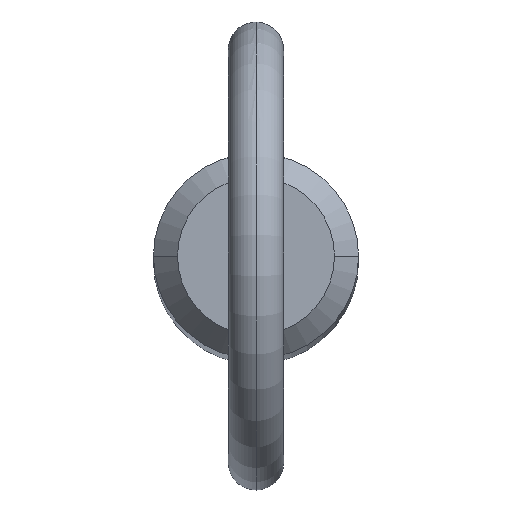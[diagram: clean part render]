
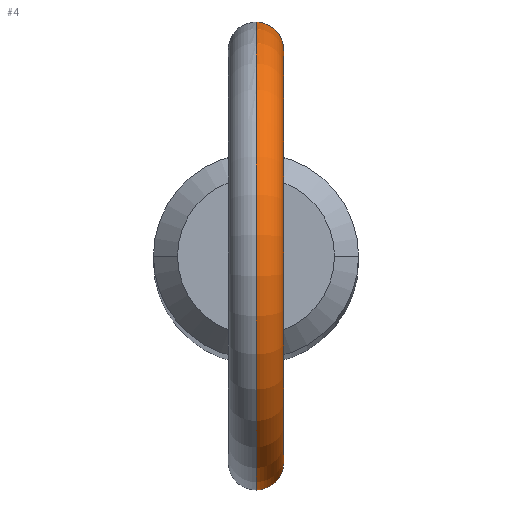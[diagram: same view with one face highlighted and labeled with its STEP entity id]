
A CAD part, top view. The second image highlights one B-rep face of the part: STEP entity #4.
In plain terms, the highlighted toroidal (fillet/blend) face has major radius 11.2 mm and minor radius 1.5 mm.
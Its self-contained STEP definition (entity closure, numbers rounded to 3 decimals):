
#3 = CARTESIAN_POINT ( 'NONE',  ( 0.417, -5.535, 149.467 ) ) ;
#4 = ADVANCED_FACE ( 'NONE', ( #345 ), #251, .T. ) ;
#21 = CIRCLE ( 'NONE', #230, 9.7 ) ;
#27 = CARTESIAN_POINT ( 'NONE',  ( 1.352, 5.383, 146.935 ) ) ;
#31 = CARTESIAN_POINT ( 'NONE',  ( 1.003, 5.459, 149.025 ) ) ;
#33 = CARTESIAN_POINT ( 'NONE',  ( 0.213, -5.547, 146.088 ) ) ;
#35 = CARTESIAN_POINT ( 'NONE',  ( 1.503, -5.343, 147.659 ) ) ;
#37 = VERTEX_POINT ( 'NONE', #267 ) ;
#71 = CARTESIAN_POINT ( 'NONE',  ( 0.807, -5.492, 146.306 ) ) ;
#75 = CARTESIAN_POINT ( 'NONE',  ( 0.107, -5.55, 146.077 ) ) ;
#80 = EDGE_CURVE ( 'NONE', #202, #37, #248, .T. ) ;
#96 = EDGE_CURVE ( 'NONE', #177, #492, #406, .T. ) ;
#106 = CARTESIAN_POINT ( 'NONE',  ( 1.363, -5.38, 146.934 ) ) ;
#109 = CARTESIAN_POINT ( 'NONE',  ( 1.455, -5.356, 147.238 ) ) ;
#113 = CARTESIAN_POINT ( 'NONE',  ( 0.984, 5.464, 146.424 ) ) ;
#115 = DIRECTION ( 'NONE',  ( 0., 0., -1. ) ) ;
#116 = ORIENTED_EDGE ( 'NONE', *, *, #445, .F. ) ;
#147 = CARTESIAN_POINT ( 'NONE',  ( 1.5, -5.343, 147.554 ) ) ;
#148 = CARTESIAN_POINT ( 'NONE',  ( 0., -5.55, 149.545 ) ) ;
#150 = CARTESIAN_POINT ( 'NONE',  ( 1.44, -5.36, 148.186 ) ) ;
#153 = CARTESIAN_POINT ( 'NONE',  ( 0.977, -5.464, 146.432 ) ) ;
#155 = CARTESIAN_POINT ( 'NONE',  ( 0.81, 5.494, 146.295 ) ) ;
#156 = CARTESIAN_POINT ( 'NONE',  ( 0., 0., 157.5 ) ) ;
#157 = CARTESIAN_POINT ( 'NONE',  ( 1.485, 5.348, 147.978 ) ) ;
#162 = CARTESIAN_POINT ( 'NONE',  ( 0.213, 5.55, 149.545 ) ) ;
#173 = DIRECTION ( 'NONE',  ( 0., 0., -1. ) ) ;
#177 = VERTEX_POINT ( 'NONE', #421 ) ;
#193 = CARTESIAN_POINT ( 'NONE',  ( 0.523, -5.526, 146.166 ) ) ;
#196 = CARTESIAN_POINT ( 'NONE',  ( 1.251, 5.407, 146.75 ) ) ;
#199 = CARTESIAN_POINT ( 'NONE',  ( 0.106, -5.55, 149.545 ) ) ;
#202 = VERTEX_POINT ( 'NONE', #148 ) ;
#203 = EDGE_CURVE ( 'NONE', #177, #37, #336, .T. ) ;
#225 = CARTESIAN_POINT ( 'NONE',  ( 0., 0., 157.5 ) ) ;
#227 = DIRECTION ( 'NONE',  ( 1., 0., 0. ) ) ;
#230 = AXIS2_PLACEMENT_3D ( 'NONE', #225, #299, #173 ) ;
#235 = CARTESIAN_POINT ( 'NONE',  ( 0.941, -5.471, 149.107 ) ) ;
#237 = CARTESIAN_POINT ( 'NONE',  ( 1.26, -5.407, 146.743 ) ) ;
#239 = CARTESIAN_POINT ( 'NONE',  ( 1.294, 5.398, 148.585 ) ) ;
#244 = CARTESIAN_POINT ( 'NONE',  ( 1.194, -5.422, 148.771 ) ) ;
#247 = DIRECTION ( 'NONE',  ( 1., 0., 0. ) ) ;
#248 = B_SPLINE_CURVE_WITH_KNOTS ( 'NONE', 3,
 ( #315, #199, #481, #3, #320, #488, #235, #244, #479, #150, #280, #35, #147, #279, #109, #106, #237, #362, #153, #71, #321, #193, #525, #33, #75, #520 ),
 .UNSPECIFIED., .F., .F.,
 ( 4, 2, 2, 2, 2, 2, 2, 2, 2, 2, 2, 2, 4 ),
 ( 0.005, 0.005, 0.005, 0.006, 0.006, 0.007, 0.007, 0.008, 0.008, 0.009, 0.009, 0.009, 0.01 ),
 .UNSPECIFIED. ) ;
#251 = TOROIDAL_SURFACE ( 'NONE', #288, 11.2, 1.5 ) ;
#267 = CARTESIAN_POINT ( 'NONE',  ( 0., -5.55, 146.077 ) ) ;
#271 = CARTESIAN_POINT ( 'NONE',  ( 1.509, 5.341, 147.553 ) ) ;
#277 = CARTESIAN_POINT ( 'NONE',  ( 1.194, 5.422, 148.772 ) ) ;
#279 = CARTESIAN_POINT ( 'NONE',  ( 1.477, -5.35, 147.344 ) ) ;
#280 = CARTESIAN_POINT ( 'NONE',  ( 1.486, -5.347, 147.974 ) ) ;
#288 = AXIS2_PLACEMENT_3D ( 'NONE', #437, #227, #434 ) ;
#299 = DIRECTION ( 'NONE',  ( 1., 0., 0. ) ) ;
#311 = ORIENTED_EDGE ( 'NONE', *, *, #203, .T. ) ;
#314 = CARTESIAN_POINT ( 'NONE',  ( 1.393, 5.372, 147.033 ) ) ;
#315 = CARTESIAN_POINT ( 'NONE',  ( 0., -5.55, 149.545 ) ) ;
#320 = CARTESIAN_POINT ( 'NONE',  ( 0.515, -5.527, 149.422 ) ) ;
#321 = CARTESIAN_POINT ( 'NONE',  ( 0.716, -5.504, 146.252 ) ) ;
#336 = CIRCLE ( 'NONE', #418, 12.7 ) ;
#345 = FACE_OUTER_BOUND ( 'NONE', #353, .T. ) ;
#353 = EDGE_LOOP ( 'NONE', ( #387, #311, #458, #116 ) ) ;
#362 = CARTESIAN_POINT ( 'NONE',  ( 1.055, -5.449, 146.505 ) ) ;
#365 = CARTESIAN_POINT ( 'NONE',  ( 0.779, 5.496, 149.248 ) ) ;
#368 = CARTESIAN_POINT ( 'NONE',  ( 0., 5.55, 146.077 ) ) ;
#375 = CARTESIAN_POINT ( 'NONE',  ( 0., 5.55, 149.545 ) ) ;
#387 = ORIENTED_EDGE ( 'NONE', *, *, #96, .F. ) ;
#404 = CARTESIAN_POINT ( 'NONE',  ( 0.107, 5.55, 146.077 ) ) ;
#406 = B_SPLINE_CURVE_WITH_KNOTS ( 'NONE', 3,
 ( #368, #404, #440, #409, #447, #155, #113, #413, #196, #27, #314, #523, #271, #157, #483, #239, #277, #31, #448, #365, #486, #495, #162, #375 ),
 .UNSPECIFIED., .F., .F.,
 ( 4, 2, 2, 2, 2, 2, 2, 2, 2, 2, 2, 4 ),
 ( 0.001, 0.001, 0.001, 0.002, 0.002, 0.002, 0.003, 0.004, 0.004, 0.005, 0.005, 0.006 ),
 .UNSPECIFIED. ) ;
#409 = CARTESIAN_POINT ( 'NONE',  ( 0.419, 5.535, 146.132 ) ) ;
#413 = CARTESIAN_POINT ( 'NONE',  ( 1.19, 5.421, 146.662 ) ) ;
#418 = AXIS2_PLACEMENT_3D ( 'NONE', #156, #247, #115 ) ;
#421 = CARTESIAN_POINT ( 'NONE',  ( 0., 5.55, 146.077 ) ) ;
#432 = CARTESIAN_POINT ( 'NONE',  ( 0., 5.55, 149.545 ) ) ;
#434 = DIRECTION ( 'NONE',  ( 0., 0., -1. ) ) ;
#437 = CARTESIAN_POINT ( 'NONE',  ( 0., 0., 157.5 ) ) ;
#440 = CARTESIAN_POINT ( 'NONE',  ( 0.212, 5.547, 146.088 ) ) ;
#445 = EDGE_CURVE ( 'NONE', #492, #202, #21, .T. ) ;
#447 = CARTESIAN_POINT ( 'NONE',  ( 0.522, 5.526, 146.165 ) ) ;
#448 = CARTESIAN_POINT ( 'NONE',  ( 0.933, 5.472, 149.104 ) ) ;
#458 = ORIENTED_EDGE ( 'NONE', *, *, #80, .F. ) ;
#479 = CARTESIAN_POINT ( 'NONE',  ( 1.295, -5.397, 148.582 ) ) ;
#481 = CARTESIAN_POINT ( 'NONE',  ( 0.214, -5.547, 149.528 ) ) ;
#483 = CARTESIAN_POINT ( 'NONE',  ( 1.44, 5.36, 148.188 ) ) ;
#486 = CARTESIAN_POINT ( 'NONE',  ( 0.694, 5.507, 149.314 ) ) ;
#488 = CARTESIAN_POINT ( 'NONE',  ( 0.786, -5.497, 149.257 ) ) ;
#492 = VERTEX_POINT ( 'NONE', #432 ) ;
#495 = CARTESIAN_POINT ( 'NONE',  ( 0.422, 5.537, 149.478 ) ) ;
#520 = CARTESIAN_POINT ( 'NONE',  ( 0., -5.55, 146.077 ) ) ;
#523 = CARTESIAN_POINT ( 'NONE',  ( 1.486, 5.348, 147.338 ) ) ;
#525 = CARTESIAN_POINT ( 'NONE',  ( 0.421, -5.535, 146.132 ) ) ;
